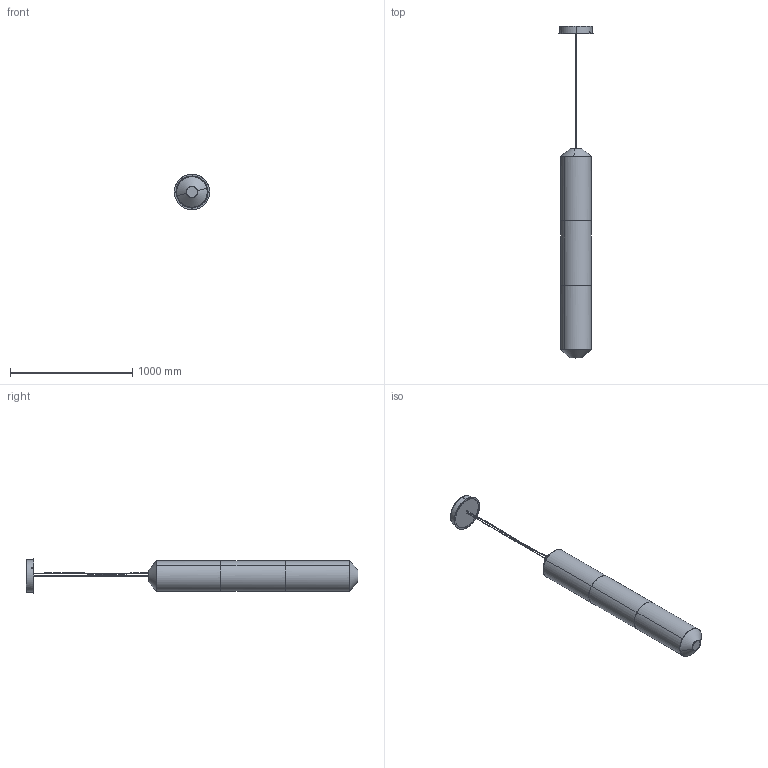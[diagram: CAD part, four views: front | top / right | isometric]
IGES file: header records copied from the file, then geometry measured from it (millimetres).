
Start section: SolidWorks IGES file using analytic representation for surfaces
Global section: file name: C:\SANTACOLE_PDM\Proyectos Catálogo\PROD-P16-018 -- TEKIO\6_Técnico comercial\3D\Tekio Vertical\Tekio Vertical P3\Tekio Vertical P3.IGS; native system: SolidWorks 2019; preprocessor: SolidWorks 2019; author: aina.morell; date: 200406.182109; units: millimetre
Bounding box: 290 x 2716.01 x 290 mm (x, y, z)
Surface area: 3108825.3 mm2 (no closed solid volume)
Topology: 0 solids, 0 shells, 190 faces, 4283 edges, 4283 vertices
Faces by surface type: bspline 186, revolution 4
